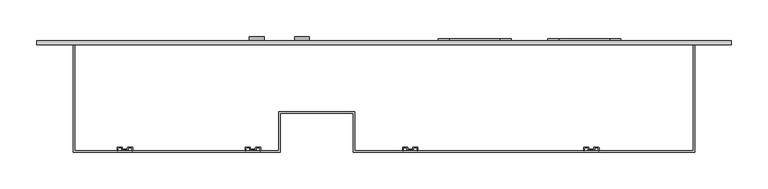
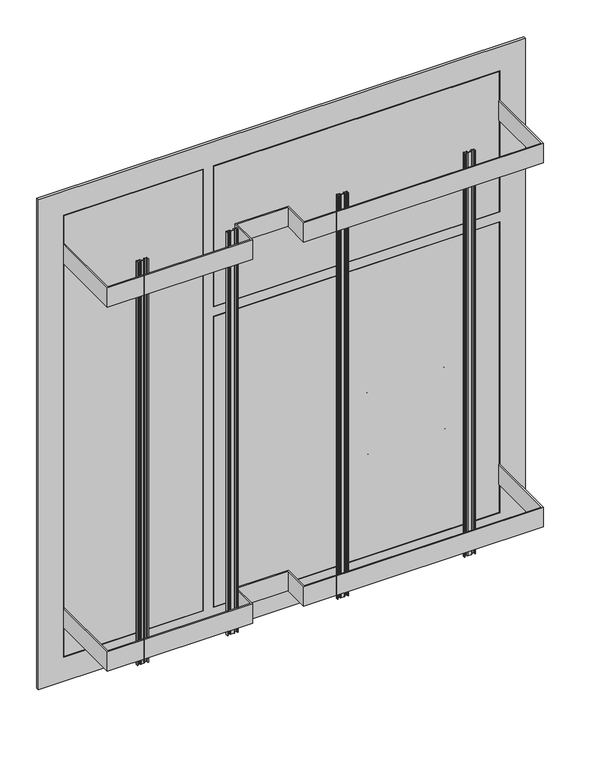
"""IFC4 building model written with IfcOpenShell, lengths in millimetres: proxy geometry, ЩЭ : ЩЭ_6 квартир."""

import ifcopenshell
import ifcopenshell.guid

model = None  # the IFC model being written
_history = None  # IfcOwnerHistory: only IFC2X3 demands one
_inside = {}  # id of a spatial element -> (the spatial element, [elements in it])
_under = {}  # id of a project, library or spatial element -> (it, [spatial elements below it])
_declared = {}  # id of a project -> (the project, [libraries it declares])
_typed = {}  # id of a type object -> (the type object, [elements of that type])
_made_of = {}  # id of a material, layer set ... -> (it, [elements and type objects made of it])


def new_model(schema):
    """Start an empty IFC model of exactly this schema.

    Asked for "IFC4X3", IfcOpenShell would pick the latest addendum, in which some entities
    have other attributes; the version numbers below select the first issue.
    IFC2X3 requires an IfcOwnerHistory on every rooted entity: one is made here for all.
    """
    global model, _history
    if schema == "IFC4X3":
        model = ifcopenshell.file(schema_version=(4, 3, 0, 0))
    else:
        model = ifcopenshell.file(schema=schema)
    _inside.clear()
    _under.clear()
    _declared.clear()
    _typed.clear()
    _made_of.clear()
    _history = None
    if model.schema == "IFC2X3":
        org = make("IfcOrganization", Name="unknown")
        user = make(
            "IfcPersonAndOrganization",
            ThePerson=make("IfcPerson", FamilyName="unknown"),
            TheOrganization=org,
        )
        app = make(
            "IfcApplication",
            ApplicationDeveloper=org,
            Version="unknown",
            ApplicationFullName="unknown",
            ApplicationIdentifier="unknown",
        )
        _history = make(
            "IfcOwnerHistory",
            OwningUser=user,
            OwningApplication=app,
            ChangeAction="ADDED",
            CreationDate=0,
        )
    return model


def make(cls, **values):
    """One entity of the class cls with the attributes given. An attribute that is None is left unset."""
    return model.create_entity(
        cls, **{name: value for name, value in values.items() if value is not None}
    )


def rooted(cls, **values):
    """An entity with a GlobalId (a new one), such as an element, a storey or a relation."""
    return make(cls, GlobalId=ifcopenshell.guid.new(), OwnerHistory=_history, **values)


def si_unit(unit_type, name, prefix=None):
    """IfcSIUnit, for example si_unit("LENGTHUNIT", "METRE", prefix="MILLI")."""
    return make("IfcSIUnit", UnitType=unit_type, Prefix=prefix, Name=name)


def assignment(units):
    """IfcUnitAssignment: the units of a project."""
    return None if units is None else make("IfcUnitAssignment", Units=units)


def point(xyz):
    """IfcCartesianPoint."""
    return None if xyz is None else make("IfcCartesianPoint", Coordinates=xyz)


def direction(xyz):
    """IfcDirection."""
    return None if xyz is None else make("IfcDirection", DirectionRatios=xyz)


def frame(location, z_axis=None, x_axis=None):
    """IfcAxis2Placement3D, a coordinate frame: its origin and axes. An axis left out is left unset."""
    return make(
        "IfcAxis2Placement3D",
        Location=point(location),
        Axis=direction(z_axis),
        RefDirection=direction(x_axis),
    )


def frame_2d(location, x_axis=None):
    """IfcAxis2Placement2D, a coordinate frame in the plane: its origin and x axis."""
    return make(
        "IfcAxis2Placement2D", Location=point(location), RefDirection=direction(x_axis)
    )


def origin():
    """The frame at (0, 0, 0) with its axes left unset."""
    return frame((0.0, 0.0, 0.0))


def place(relative_to, where):
    """IfcLocalPlacement: puts the frame where relative to a parent placement (None: the world)."""
    return make(
        "IfcLocalPlacement", PlacementRelTo=relative_to, RelativePlacement=where
    )


def context(
    kind, dimensions, precision=None, world=None, true_north=None, identifier=None
):
    """IfcGeometricRepresentationContext, for example the 3D "Model" context."""
    return make(
        "IfcGeometricRepresentationContext",
        ContextIdentifier=identifier,
        ContextType=kind,
        CoordinateSpaceDimension=dimensions,
        Precision=precision,
        WorldCoordinateSystem=world,
        TrueNorth=true_north,
    )


def project(units=None, contexts=None):
    """IfcProject with its units and contexts."""
    return rooted(
        "IfcProject",
        Name="project",
        RepresentationContexts=contexts,
        UnitsInContext=assignment(units),
    )


def spatial(cls, under=None, at=None, **own):
    """A site, building, storey or space (cls), placed at a placement, below another one or the project."""
    s = rooted(cls, ObjectPlacement=at, **own)
    if under is not None:
        _under.setdefault(under.id(), (under, []))[1].append(s)
    return s


def polyline(points):
    """IfcPolyline through the points."""
    return make("IfcPolyline", Points=[point(p) for p in points])


def circle_curve(where, radius):
    """IfcCircle in the frame where."""
    return make("IfcCircle", Position=where, Radius=radius)


def trimmed(basis, trim1, trim2, sense, master):
    """IfcTrimmedCurve: the piece of a basis curve between two trims."""
    return make(
        "IfcTrimmedCurve",
        BasisCurve=basis,
        Trim1=trim1,
        Trim2=trim2,
        SenseAgreement=sense,
        MasterRepresentation=master,
    )


def segment(curve, same_sense, transition):
    """IfcCompositeCurveSegment."""
    return make(
        "IfcCompositeCurveSegment",
        Transition=transition,
        SameSense=same_sense,
        ParentCurve=curve,
    )


def composite_curve(segments, self_intersect=None):
    """IfcCompositeCurve: segments joined end to end."""
    return make("IfcCompositeCurve", Segments=segments, SelfIntersect=self_intersect)


def outline(outer, holes=None, kind="AREA"):
    """IfcArbitraryClosedProfileDef: a profile drawn as a closed curve; with holes, ...WithVoids."""
    if holes is None:
        return make("IfcArbitraryClosedProfileDef", ProfileType=kind, OuterCurve=outer)
    return make(
        "IfcArbitraryProfileDefWithVoids",
        ProfileType=kind,
        OuterCurve=outer,
        InnerCurves=holes,
    )


def extrude(swept, where, along, depth):
    """IfcExtrudedAreaSolid: the profile swept, set in the frame where, extruded along a direction by depth."""
    return make(
        "IfcExtrudedAreaSolid",
        SweptArea=swept,
        Position=where,
        ExtrudedDirection=direction(along),
        Depth=depth,
    )


def shape(context_of_items, identifier, shape_type, items):
    """IfcShapeRepresentation: the items that make up one representation, for example the "Body"."""
    return make(
        "IfcShapeRepresentation",
        ContextOfItems=context_of_items,
        RepresentationIdentifier=identifier,
        RepresentationType=shape_type,
        Items=items,
    )


def source(mapping_origin, context_of_items, identifier, shape_type, items):
    """IfcRepresentationMap: a shape defined once, which mapped items show again and again."""
    return make(
        "IfcRepresentationMap",
        MappingOrigin=mapping_origin,
        MappedRepresentation=shape(context_of_items, identifier, shape_type, items),
    )


def transform(
    local_origin,
    x_axis=None,
    y_axis=None,
    z_axis=None,
    scale=None,
    scale2=None,
    scale3=None,
    uniform=True,
):
    """IfcCartesianTransformationOperator3D, or its non-uniform kind. x_axis, y_axis, z_axis: its Axis1, 2, 3."""
    if uniform:
        return make(
            "IfcCartesianTransformationOperator3D",
            Axis1=direction(x_axis),
            Axis2=direction(y_axis),
            LocalOrigin=point(local_origin),
            Scale=scale,
            Axis3=direction(z_axis),
        )
    return make(
        "IfcCartesianTransformationOperator3DnonUniform",
        Axis1=direction(x_axis),
        Axis2=direction(y_axis),
        LocalOrigin=point(local_origin),
        Scale=scale,
        Axis3=direction(z_axis),
        Scale2=scale2,
        Scale3=scale3,
    )


def mapped(mapping_source, mapping_target):
    """IfcMappedItem: shows the shape of a source again, moved by a transform."""
    return make(
        "IfcMappedItem", MappingSource=mapping_source, MappingTarget=mapping_target
    )


def made_of(thing, what):
    """Note that an element or type object is made of a material, layer set ...; save() writes the relation."""
    if what is not None:
        _made_of.setdefault(what.id(), (what, []))[1].append(thing)
    return thing


def element(
    cls,
    number,
    at=None,
    inside=None,
    cuts=None,
    type_object=None,
    material=None,
    context=None,
    identifier="Body",
    shape_type=None,
    held_by="IfcProductDefinitionShape",
    body=None,
    shapes=None,
    **own,
):
    """One element of the class cls, such as IfcWall. Its Tag is "e" and its number.

    at: its placement. inside: the storey or other place that contains it. cuts: it is an
    opening in that element (IfcRelVoidsElement). A single representation is given by context,
    identifier, shape_type and body (its items); several are given by shapes. held_by: the class
    of the entity that holds the representations. save() writes the other relations.
    """
    e = rooted(cls, Tag="e%d" % number, ObjectPlacement=at, **own)
    if body is not None:
        shapes = [shape(context, identifier, shape_type, body)]
    if shapes is not None:
        e.Representation = make(held_by, Representations=shapes)
    if inside is not None:
        _inside.setdefault(inside.id(), (inside, []))[1].append(e)
    if cuts is not None:
        rooted(
            "IfcRelVoidsElement", RelatingBuildingElement=cuts, RelatedOpeningElement=e
        )
    if type_object is not None:
        _typed.setdefault(type_object.id(), (type_object, []))[1].append(e)
    return made_of(e, material)


def aggregate(whole, parts):
    """IfcRelAggregates: a whole, such as a stair, and the parts it consists of."""
    return rooted("IfcRelAggregates", RelatingObject=whole, RelatedObjects=parts)


def save(model, path):
    """Write the relations noted so far, then the file.

    IfcRelAggregates (storeys below a building ...), IfcRelContainedInSpatialStructure (elements
    in a storey), IfcRelDefinesByType, IfcRelAssociatesMaterial and IfcRelDeclares: one each for
    every whole, place, type object, material and project.
    """
    for whole, parts in _under.values():
        aggregate(whole, parts)
    for where, things in _inside.values():
        rooted(
            "IfcRelContainedInSpatialStructure",
            RelatedElements=things,
            RelatingStructure=where,
        )
    for kind, things in _typed.values():
        rooted("IfcRelDefinesByType", RelatedObjects=things, RelatingType=kind)
    for what, things in _made_of.values():
        rooted("IfcRelAssociatesMaterial", RelatedObjects=things, RelatingMaterial=what)
    for by, libraries in _declared.values():
        rooted("IfcRelDeclares", RelatingContext=by, RelatedDefinitions=libraries)
    model.write(path)


def plane_surface(at):
    """IfcPlane: the flat surface through the origin of the frame at, square to its z axis."""
    return make("IfcPlane", Position=at)


def cylinder_surface(at, radius):
    """IfcCylindricalSurface: all points at the distance radius from the z axis of the frame at."""
    return make("IfcCylindricalSurface", Position=at, Radius=radius)


def revolved_surface(curve, axis_point, axis_direction):
    """IfcSurfaceOfRevolution: the curve turned about the line through axis_point along axis_direction."""
    return make(
        "IfcSurfaceOfRevolution",
        SweptCurve=make("IfcArbitraryOpenProfileDef", ProfileType="CURVE", Curve=curve),
        AxisPosition=make("IfcAxis1Placement", Location=point(axis_point), Axis=direction(axis_direction)),
    )


def advanced_brep(points, edges, surfaces, faces):
    """IfcAdvancedBrep: a solid bounded by faces that lie on surfaces and meet in shared edges.

    An edge is (start, end): straight between two places in points (the first is 0);
    or (start, end, curve); or (start, end, curve, False) where it runs against its curve.
    A face is (place in surfaces, loops), or (place, loops, False) where it looks against
    its surface's normal. A loop lists edges by number (the first is 1), with a minus sign
    where the edge is run from its end to its start. The first loop is the outer one.
    """
    corners = [point(p) for p in points]
    vertices = [make("IfcVertexPoint", VertexGeometry=c) for c in corners]
    made = []
    for start, end, *more in edges:
        made.append(
            make(
                "IfcEdgeCurve",
                EdgeStart=vertices[start],
                EdgeEnd=vertices[end],
                EdgeGeometry=more[0] if more else make("IfcPolyline", Points=[corners[start], corners[end]]),
                SameSense=more[1] if len(more) > 1 else True,
            )
        )
    hull = []
    for where, loops, *sense in faces:
        bounds = []
        for j, loop in enumerate(loops):
            ring = [make("IfcOrientedEdge", EdgeElement=made[abs(k) - 1], Orientation=k > 0) for k in loop]
            bounds.append(
                make(
                    "IfcFaceOuterBound" if j == 0 else "IfcFaceBound",
                    Bound=make("IfcEdgeLoop", EdgeList=ring),
                    Orientation=True,
                )
            )
        hull.append(make("IfcAdvancedFace", Bounds=bounds, FaceSurface=surfaces[where], SameSense=sense[0] if sense else True))
    return make("IfcAdvancedBrep", Outer=make("IfcClosedShell", CfsFaces=hull))


def electrical_equipment_640d19c4(model_context):
    return source(origin(), model_context, "Body", "SolidModel", [
        extrude(outline(composite_curve([segment(trimmed(circle_curve(frame_2d((373.0, 89.0)), 15.0), [point((388.0, 89.0))], [point((373.0, 74.0))], False, "CARTESIAN"), True, "CONTINUOUS"), segment(polyline([(373.0, 74.0), (338.0, 74.0)]), True, "CONTINUOUS"), segment(trimmed(circle_curve(frame_2d((338.0, 89.0)), 15.0), [point((338.0, 74.0))], [point((323.0, 89.0))], False, "CARTESIAN"), True, "CONTINUOUS"), segment(polyline([(323.0, 89.0), (323.0, 159.0)]), True, "CONTINUOUS"), segment(trimmed(circle_curve(frame_2d((338.0, 159.0)), 15.0), [point((323.0, 159.0))], [point((338.0, 174.0))], False, "CARTESIAN"), True, "CONTINUOUS"), segment(polyline([(338.0, 174.0), (373.0, 174.0)]), True, "CONTINUOUS"), segment(trimmed(circle_curve(frame_2d((373.0, 159.0)), 15.0), [point((373.0, 174.0))], [point((388.0, 159.0))], False, "CARTESIAN"), True, "CONTINUOUS"), segment(polyline([(388.0, 159.0), (388.0, 89.0)]), True, "CONTINUOUS")], self_intersect=False)), frame((0.0, 5.0, 0.0), z_axis=(0.0, 1.0, 0.0), x_axis=(0.0, 0.0, 1.0)), (0.0, 0.0, 1.0), 3.0),
        extrude(outline(composite_curve([segment(trimmed(circle_curve(frame_2d((373.0, 239.0)), 15.0), [point((388.0, 239.0))], [point((373.0, 224.0))], False, "CARTESIAN"), True, "CONTINUOUS"), segment(polyline([(373.0, 224.0), (338.0, 224.0)]), True, "CONTINUOUS"), segment(trimmed(circle_curve(frame_2d((338.0, 239.0)), 15.0), [point((338.0, 224.0))], [point((323.0, 239.0))], False, "CARTESIAN"), True, "CONTINUOUS"), segment(polyline([(323.0, 239.0), (323.0, 309.0)]), True, "CONTINUOUS"), segment(trimmed(circle_curve(frame_2d((338.0, 309.0)), 15.0), [point((323.0, 309.0))], [point((338.0, 324.0))], False, "CARTESIAN"), True, "CONTINUOUS"), segment(polyline([(338.0, 324.0), (373.0, 324.0)]), True, "CONTINUOUS"), segment(trimmed(circle_curve(frame_2d((373.0, 309.0)), 15.0), [point((373.0, 324.0))], [point((388.0, 309.0))], False, "CARTESIAN"), True, "CONTINUOUS"), segment(polyline([(388.0, 309.0), (388.0, 239.0)]), True, "CONTINUOUS")], self_intersect=False)), frame((0.0, 5.0, 0.0), z_axis=(0.0, 1.0, 0.0), x_axis=(0.0, 0.0, 1.0)), (0.0, 0.0, 1.0), 3.0),
        extrude(outline(composite_curve([segment(trimmed(circle_curve(frame_2d((248.0, 89.0)), 15.0), [point((263.0, 89.0))], [point((248.0, 74.0))], False, "CARTESIAN"), True, "CONTINUOUS"), segment(polyline([(248.0, 74.0), (213.0, 74.0)]), True, "CONTINUOUS"), segment(trimmed(circle_curve(frame_2d((213.0, 89.0)), 15.0), [point((213.0, 74.0))], [point((198.0, 89.0))], False, "CARTESIAN"), True, "CONTINUOUS"), segment(polyline([(198.0, 89.0), (198.0, 159.0)]), True, "CONTINUOUS"), segment(trimmed(circle_curve(frame_2d((213.0, 159.0)), 15.0), [point((198.0, 159.0))], [point((213.0, 174.0))], False, "CARTESIAN"), True, "CONTINUOUS"), segment(polyline([(213.0, 174.0), (248.0, 174.0)]), True, "CONTINUOUS"), segment(trimmed(circle_curve(frame_2d((248.0, 159.0)), 15.0), [point((248.0, 174.0))], [point((263.0, 159.0))], False, "CARTESIAN"), True, "CONTINUOUS"), segment(polyline([(263.0, 159.0), (263.0, 89.0)]), True, "CONTINUOUS")], self_intersect=False)), frame((0.0, 5.0, 0.0), z_axis=(0.0, 1.0, 0.0), x_axis=(0.0, 0.0, 1.0)), (0.0, 0.0, 1.0), 3.0),
        extrude(outline(composite_curve([segment(trimmed(circle_curve(frame_2d((248.0, 239.0)), 15.0), [point((263.0, 239.0))], [point((248.0, 224.0))], False, "CARTESIAN"), True, "CONTINUOUS"), segment(polyline([(248.0, 224.0), (213.0, 224.0)]), True, "CONTINUOUS"), segment(trimmed(circle_curve(frame_2d((213.0, 239.0)), 15.0), [point((213.0, 224.0))], [point((198.0, 239.0))], False, "CARTESIAN"), True, "CONTINUOUS"), segment(polyline([(198.0, 239.0), (198.0, 309.0)]), True, "CONTINUOUS"), segment(trimmed(circle_curve(frame_2d((213.0, 309.0)), 15.0), [point((198.0, 309.0))], [point((213.0, 324.0))], False, "CARTESIAN"), True, "CONTINUOUS"), segment(polyline([(213.0, 324.0), (248.0, 324.0)]), True, "CONTINUOUS"), segment(trimmed(circle_curve(frame_2d((248.0, 309.0)), 15.0), [point((248.0, 324.0))], [point((263.0, 309.0))], False, "CARTESIAN"), True, "CONTINUOUS"), segment(polyline([(263.0, 309.0), (263.0, 239.0)]), True, "CONTINUOUS")], self_intersect=False)), frame((0.0, 5.0, 0.0), z_axis=(0.0, 1.0, 0.0), x_axis=(0.0, 0.0, 1.0)), (0.0, 0.0, 1.0), 3.0),
        extrude(outline(composite_curve([segment(trimmed(circle_curve(frame_2d((498.0, 89.0)), 15.0), [point((513.0, 89.0))], [point((498.0, 74.0))], False, "CARTESIAN"), True, "CONTINUOUS"), segment(polyline([(498.0, 74.0), (463.0, 74.0)]), True, "CONTINUOUS"), segment(trimmed(circle_curve(frame_2d((463.0, 89.0)), 15.0), [point((463.0, 74.0))], [point((448.0, 89.0))], False, "CARTESIAN"), True, "CONTINUOUS"), segment(polyline([(448.0, 89.0), (448.0, 159.0)]), True, "CONTINUOUS"), segment(trimmed(circle_curve(frame_2d((463.0, 159.0)), 15.0), [point((448.0, 159.0))], [point((463.0, 174.0))], False, "CARTESIAN"), True, "CONTINUOUS"), segment(polyline([(463.0, 174.0), (498.0, 174.0)]), True, "CONTINUOUS"), segment(trimmed(circle_curve(frame_2d((498.0, 159.0)), 15.0), [point((498.0, 174.0))], [point((513.0, 159.0))], False, "CARTESIAN"), True, "CONTINUOUS"), segment(polyline([(513.0, 159.0), (513.0, 89.0)]), True, "CONTINUOUS")], self_intersect=False)), frame((0.0, 5.0, 0.0), z_axis=(0.0, 1.0, 0.0), x_axis=(0.0, 0.0, 1.0)), (0.0, 0.0, 1.0), 3.0),
        extrude(outline(composite_curve([segment(trimmed(circle_curve(frame_2d((498.0, 239.0)), 15.0), [point((513.0, 239.0))], [point((498.0, 224.0))], False, "CARTESIAN"), True, "CONTINUOUS"), segment(polyline([(498.0, 224.0), (463.0, 224.0)]), True, "CONTINUOUS"), segment(trimmed(circle_curve(frame_2d((463.0, 239.0)), 15.0), [point((463.0, 224.0))], [point((448.0, 239.0))], False, "CARTESIAN"), True, "CONTINUOUS"), segment(polyline([(448.0, 239.0), (448.0, 309.0)]), True, "CONTINUOUS"), segment(trimmed(circle_curve(frame_2d((463.0, 309.0)), 15.0), [point((448.0, 309.0))], [point((463.0, 324.0))], False, "CARTESIAN"), True, "CONTINUOUS"), segment(polyline([(463.0, 324.0), (498.0, 324.0)]), True, "CONTINUOUS"), segment(trimmed(circle_curve(frame_2d((498.0, 309.0)), 15.0), [point((498.0, 324.0))], [point((513.0, 309.0))], False, "CARTESIAN"), True, "CONTINUOUS"), segment(polyline([(513.0, 309.0), (513.0, 239.0)]), True, "CONTINUOUS")], self_intersect=False)), frame((0.0, 5.0, 0.0), z_axis=(0.0, 1.0, 0.0), x_axis=(0.0, 0.0, 1.0)), (0.0, 0.0, 1.0), 3.0),
        extrude(outline(composite_curve([segment(trimmed(circle_curve(frame_2d((26.3020158, -141.0)), 1.0), [point((25.3020158, -141.0))], [point((26.3020158, -140.0))], False, "CARTESIAN"), True, "CONTINUOUS"), segment(polyline([(26.3020158, -140.0), (31.3020158, -140.0)]), True, "CONTINUOUS"), segment(trimmed(circle_curve(frame_2d((31.3020158, -141.0)), 1.0), [point((31.3020158, -140.0))], [point((32.3020158, -141.0))], False, "CARTESIAN"), True, "CONTINUOUS"), segment(polyline([(32.3020158, -141.0), (32.3020158, -142.0)]), True, "CONTINUOUS"), segment(trimmed(circle_curve(frame_2d((33.3020158, -142.0)), 1.0), [point((32.3020158, -142.0))], [point((33.3020158, -143.0))], True, "CARTESIAN"), True, "CONTINUOUS"), segment(polyline([(33.3020158, -143.0), (38.3020158, -143.0)]), True, "CONTINUOUS"), segment(trimmed(circle_curve(frame_2d((38.3020158, -142.0)), 1.0), [point((38.3020158, -143.0))], [point((39.3020158, -142.0))], True, "CARTESIAN"), True, "CONTINUOUS"), segment(polyline([(39.3020158, -142.0), (39.3020158, -141.0)]), True, "CONTINUOUS"), segment(trimmed(circle_curve(frame_2d((40.3020158, -141.0)), 1.0), [point((39.3020158, -141.0))], [point((40.3020158, -140.0))], False, "CARTESIAN"), True, "CONTINUOUS"), segment(polyline([(40.3020158, -140.0), (45.3020158, -140.0)]), True, "CONTINUOUS"), segment(trimmed(circle_curve(frame_2d((45.3020158, -141.0)), 1.0), [point((45.3020158, -140.0))], [point((46.3020158, -141.0))], False, "CARTESIAN"), True, "CONTINUOUS"), segment(polyline([(46.3020158, -141.0), (46.3020158, -145.0), (45.3020158, -145.0), (45.3020158, -142.0)]), True, "CONTINUOUS"), segment(trimmed(circle_curve(frame_2d((44.3020158, -142.0)), 1.0), [point((45.3020158, -142.0))], [point((44.3020158, -141.0))], True, "CARTESIAN"), True, "CONTINUOUS"), segment(polyline([(44.3020158, -141.0), (41.3020158, -141.0)]), True, "CONTINUOUS"), segment(trimmed(circle_curve(frame_2d((41.3020158, -142.0)), 1.0), [point((41.3020158, -141.0))], [point((40.3020158, -142.0))], True, "CARTESIAN"), True, "CONTINUOUS"), segment(polyline([(40.3020158, -142.0), (40.3020158, -143.0)]), True, "CONTINUOUS"), segment(trimmed(circle_curve(frame_2d((39.3020158, -143.0)), 1.0), [point((40.3020158, -143.0))], [point((39.3020158, -144.0))], False, "CARTESIAN"), True, "CONTINUOUS"), segment(polyline([(39.3020158, -144.0), (32.3020158, -144.0)]), True, "CONTINUOUS"), segment(trimmed(circle_curve(frame_2d((32.3020158, -143.0)), 1.0), [point((32.3020158, -144.0))], [point((31.3020158, -143.0))], False, "CARTESIAN"), True, "CONTINUOUS"), segment(polyline([(31.3020158, -143.0), (31.3020158, -142.0)]), True, "CONTINUOUS"), segment(trimmed(circle_curve(frame_2d((30.3020158, -142.0)), 1.0), [point((31.3020158, -142.0))], [point((30.3020158, -141.0))], True, "CARTESIAN"), True, "CONTINUOUS"), segment(polyline([(30.3020158, -141.0), (27.3020158, -141.0)]), True, "CONTINUOUS"), segment(trimmed(circle_curve(frame_2d((27.3020158, -142.0)), 1.0), [point((27.3020158, -141.0))], [point((26.3020158, -142.0))], True, "CARTESIAN"), True, "CONTINUOUS"), segment(polyline([(26.3020158, -142.0), (26.3020158, -145.0), (25.3020158, -145.0), (25.3020158, -141.0)]), True, "CONTINUOUS")], self_intersect=False)), frame((0.0, 0.0, 99.2671013), z_axis=(0.0, 0.0, 1.0), x_axis=(1.0, 0.0, 0.0)), (0.0, 0.0, 1.0), 830.6584154),
        extrude(outline(composite_curve([segment(trimmed(circle_curve(frame_2d((274.0, -141.0)), 1.0), [point((273.0, -141.0))], [point((274.0, -140.0))], False, "CARTESIAN"), True, "CONTINUOUS"), segment(polyline([(274.0, -140.0), (279.0, -140.0)]), True, "CONTINUOUS"), segment(trimmed(circle_curve(frame_2d((279.0, -141.0)), 1.0), [point((279.0, -140.0))], [point((280.0, -141.0))], False, "CARTESIAN"), True, "CONTINUOUS"), segment(polyline([(280.0, -141.0), (280.0, -142.0)]), True, "CONTINUOUS"), segment(trimmed(circle_curve(frame_2d((281.0, -142.0)), 1.0), [point((280.0, -142.0))], [point((281.0, -143.0))], True, "CARTESIAN"), True, "CONTINUOUS"), segment(polyline([(281.0, -143.0), (286.0, -143.0)]), True, "CONTINUOUS"), segment(trimmed(circle_curve(frame_2d((286.0, -142.0)), 1.0), [point((286.0, -143.0))], [point((287.0, -142.0))], True, "CARTESIAN"), True, "CONTINUOUS"), segment(polyline([(287.0, -142.0), (287.0, -141.0)]), True, "CONTINUOUS"), segment(trimmed(circle_curve(frame_2d((288.0, -141.0)), 1.0), [point((287.0, -141.0))], [point((288.0, -140.0))], False, "CARTESIAN"), True, "CONTINUOUS"), segment(polyline([(288.0, -140.0), (293.0, -140.0)]), True, "CONTINUOUS"), segment(trimmed(circle_curve(frame_2d((293.0, -141.0)), 1.0), [point((293.0, -140.0))], [point((294.0, -141.0))], False, "CARTESIAN"), True, "CONTINUOUS"), segment(polyline([(294.0, -141.0), (294.0, -145.0), (293.0, -145.0), (293.0, -142.0)]), True, "CONTINUOUS"), segment(trimmed(circle_curve(frame_2d((292.0, -142.0)), 1.0), [point((293.0, -142.0))], [point((292.0, -141.0))], True, "CARTESIAN"), True, "CONTINUOUS"), segment(polyline([(292.0, -141.0), (289.0, -141.0)]), True, "CONTINUOUS"), segment(trimmed(circle_curve(frame_2d((289.0, -142.0)), 1.0), [point((289.0, -141.0))], [point((288.0, -142.0))], True, "CARTESIAN"), True, "CONTINUOUS"), segment(polyline([(288.0, -142.0), (288.0, -143.0)]), True, "CONTINUOUS"), segment(trimmed(circle_curve(frame_2d((287.0, -143.0)), 1.0), [point((288.0, -143.0))], [point((287.0, -144.0))], False, "CARTESIAN"), True, "CONTINUOUS"), segment(polyline([(287.0, -144.0), (280.0, -144.0)]), True, "CONTINUOUS"), segment(trimmed(circle_curve(frame_2d((280.0, -143.0)), 1.0), [point((280.0, -144.0))], [point((279.0, -143.0))], False, "CARTESIAN"), True, "CONTINUOUS"), segment(polyline([(279.0, -143.0), (279.0, -142.0)]), True, "CONTINUOUS"), segment(trimmed(circle_curve(frame_2d((278.0, -142.0)), 1.0), [point((279.0, -142.0))], [point((278.0, -141.0))], True, "CARTESIAN"), True, "CONTINUOUS"), segment(polyline([(278.0, -141.0), (275.0, -141.0)]), True, "CONTINUOUS"), segment(trimmed(circle_curve(frame_2d((275.0, -142.0)), 1.0), [point((275.0, -141.0))], [point((274.0, -142.0))], True, "CARTESIAN"), True, "CONTINUOUS"), segment(polyline([(274.0, -142.0), (274.0, -145.0), (273.0, -145.0), (273.0, -141.0)]), True, "CONTINUOUS")], self_intersect=False)), frame((0.0, 0.0, 99.2671013), z_axis=(0.0, 0.0, 1.0), x_axis=(1.0, 0.0, 0.0)), (0.0, 0.0, 1.0), 830.6584154),
        extrude(outline(composite_curve([segment(trimmed(circle_curve(frame_2d((-188.6979842, -141.0)), 1.0), [point((-189.6979842, -141.0))], [point((-188.6979842, -140.0))], False, "CARTESIAN"), True, "CONTINUOUS"), segment(polyline([(-188.6979842, -140.0), (-183.6979842, -140.0)]), True, "CONTINUOUS"), segment(trimmed(circle_curve(frame_2d((-183.6979842, -141.0)), 1.0), [point((-183.6979842, -140.0))], [point((-182.6979842, -141.0))], False, "CARTESIAN"), True, "CONTINUOUS"), segment(polyline([(-182.6979842, -141.0), (-182.6979842, -142.0)]), True, "CONTINUOUS"), segment(trimmed(circle_curve(frame_2d((-181.6979842, -142.0)), 1.0), [point((-182.6979842, -142.0))], [point((-181.6979842, -143.0))], True, "CARTESIAN"), True, "CONTINUOUS"), segment(polyline([(-181.6979842, -143.0), (-176.6979842, -143.0)]), True, "CONTINUOUS"), segment(trimmed(circle_curve(frame_2d((-176.6979842, -142.0)), 1.0), [point((-176.6979842, -143.0))], [point((-175.6979842, -142.0))], True, "CARTESIAN"), True, "CONTINUOUS"), segment(polyline([(-175.6979842, -142.0), (-175.6979842, -141.0)]), True, "CONTINUOUS"), segment(trimmed(circle_curve(frame_2d((-174.6979842, -141.0)), 1.0), [point((-175.6979842, -141.0))], [point((-174.6979842, -140.0))], False, "CARTESIAN"), True, "CONTINUOUS"), segment(polyline([(-174.6979842, -140.0), (-169.6979842, -140.0)]), True, "CONTINUOUS"), segment(trimmed(circle_curve(frame_2d((-169.6979842, -141.0)), 1.0), [point((-169.6979842, -140.0))], [point((-168.6979842, -141.0))], False, "CARTESIAN"), True, "CONTINUOUS"), segment(polyline([(-168.6979842, -141.0), (-168.6979842, -145.0), (-169.6979842, -145.0), (-169.6979842, -142.0)]), True, "CONTINUOUS"), segment(trimmed(circle_curve(frame_2d((-170.6979842, -142.0)), 1.0), [point((-169.6979842, -142.0))], [point((-170.6979842, -141.0))], True, "CARTESIAN"), True, "CONTINUOUS"), segment(polyline([(-170.6979842, -141.0), (-173.6979842, -141.0)]), True, "CONTINUOUS"), segment(trimmed(circle_curve(frame_2d((-173.6979842, -142.0)), 1.0), [point((-173.6979842, -141.0))], [point((-174.6979842, -142.0))], True, "CARTESIAN"), True, "CONTINUOUS"), segment(polyline([(-174.6979842, -142.0), (-174.6979842, -143.0)]), True, "CONTINUOUS"), segment(trimmed(circle_curve(frame_2d((-175.6979842, -143.0)), 1.0), [point((-174.6979842, -143.0))], [point((-175.6979842, -144.0))], False, "CARTESIAN"), True, "CONTINUOUS"), segment(polyline([(-175.6979842, -144.0), (-182.6979842, -144.0)]), True, "CONTINUOUS"), segment(trimmed(circle_curve(frame_2d((-182.6979842, -143.0)), 1.0), [point((-182.6979842, -144.0))], [point((-183.6979842, -143.0))], False, "CARTESIAN"), True, "CONTINUOUS"), segment(polyline([(-183.6979842, -143.0), (-183.6979842, -142.0)]), True, "CONTINUOUS"), segment(trimmed(circle_curve(frame_2d((-184.6979842, -142.0)), 1.0), [point((-183.6979842, -142.0))], [point((-184.6979842, -141.0))], True, "CARTESIAN"), True, "CONTINUOUS"), segment(polyline([(-184.6979842, -141.0), (-187.6979842, -141.0)]), True, "CONTINUOUS"), segment(trimmed(circle_curve(frame_2d((-187.6979842, -142.0)), 1.0), [point((-187.6979842, -141.0))], [point((-188.6979842, -142.0))], True, "CARTESIAN"), True, "CONTINUOUS"), segment(polyline([(-188.6979842, -142.0), (-188.6979842, -145.0), (-189.6979842, -145.0), (-189.6979842, -141.0)]), True, "CONTINUOUS")], self_intersect=False)), frame((0.0, 0.0, 99.2671013), z_axis=(0.0, 0.0, 1.0), x_axis=(1.0, 0.0, 0.0)), (0.0, 0.0, 1.0), 830.6584154),
        extrude(outline(composite_curve([segment(trimmed(circle_curve(frame_2d((-363.6979842, -141.0)), 1.0), [point((-364.6979842, -141.0))], [point((-363.6979842, -140.0))], False, "CARTESIAN"), True, "CONTINUOUS"), segment(polyline([(-363.6979842, -140.0), (-358.6979842, -140.0)]), True, "CONTINUOUS"), segment(trimmed(circle_curve(frame_2d((-358.6979842, -141.0)), 1.0), [point((-358.6979842, -140.0))], [point((-357.6979842, -141.0))], False, "CARTESIAN"), True, "CONTINUOUS"), segment(polyline([(-357.6979842, -141.0), (-357.6979842, -142.0)]), True, "CONTINUOUS"), segment(trimmed(circle_curve(frame_2d((-356.6979842, -142.0)), 1.0), [point((-357.6979842, -142.0))], [point((-356.6979842, -143.0))], True, "CARTESIAN"), True, "CONTINUOUS"), segment(polyline([(-356.6979842, -143.0), (-351.6979842, -143.0)]), True, "CONTINUOUS"), segment(trimmed(circle_curve(frame_2d((-351.6979842, -142.0)), 1.0), [point((-351.6979842, -143.0))], [point((-350.6979842, -142.0))], True, "CARTESIAN"), True, "CONTINUOUS"), segment(polyline([(-350.6979842, -142.0), (-350.6979842, -141.0)]), True, "CONTINUOUS"), segment(trimmed(circle_curve(frame_2d((-349.6979842, -141.0)), 1.0), [point((-350.6979842, -141.0))], [point((-349.6979842, -140.0))], False, "CARTESIAN"), True, "CONTINUOUS"), segment(polyline([(-349.6979842, -140.0), (-344.6979842, -140.0)]), True, "CONTINUOUS"), segment(trimmed(circle_curve(frame_2d((-344.6979842, -141.0)), 1.0), [point((-344.6979842, -140.0))], [point((-343.6979842, -141.0))], False, "CARTESIAN"), True, "CONTINUOUS"), segment(polyline([(-343.6979842, -141.0), (-343.6979842, -145.0), (-344.6979842, -145.0), (-344.6979842, -142.0)]), True, "CONTINUOUS"), segment(trimmed(circle_curve(frame_2d((-345.6979842, -142.0)), 1.0), [point((-344.6979842, -142.0))], [point((-345.6979842, -141.0))], True, "CARTESIAN"), True, "CONTINUOUS"), segment(polyline([(-345.6979842, -141.0), (-348.6979842, -141.0)]), True, "CONTINUOUS"), segment(trimmed(circle_curve(frame_2d((-348.6979842, -142.0)), 1.0), [point((-348.6979842, -141.0))], [point((-349.6979842, -142.0))], True, "CARTESIAN"), True, "CONTINUOUS"), segment(polyline([(-349.6979842, -142.0), (-349.6979842, -143.0)]), True, "CONTINUOUS"), segment(trimmed(circle_curve(frame_2d((-350.6979842, -143.0)), 1.0), [point((-349.6979842, -143.0))], [point((-350.6979842, -144.0))], False, "CARTESIAN"), True, "CONTINUOUS"), segment(polyline([(-350.6979842, -144.0), (-357.6979842, -144.0)]), True, "CONTINUOUS"), segment(trimmed(circle_curve(frame_2d((-357.6979842, -143.0)), 1.0), [point((-357.6979842, -144.0))], [point((-358.6979842, -143.0))], False, "CARTESIAN"), True, "CONTINUOUS"), segment(polyline([(-358.6979842, -143.0), (-358.6979842, -142.0)]), True, "CONTINUOUS"), segment(trimmed(circle_curve(frame_2d((-359.6979842, -142.0)), 1.0), [point((-358.6979842, -142.0))], [point((-359.6979842, -141.0))], True, "CARTESIAN"), True, "CONTINUOUS"), segment(polyline([(-359.6979842, -141.0), (-362.6979842, -141.0)]), True, "CONTINUOUS"), segment(trimmed(circle_curve(frame_2d((-362.6979842, -142.0)), 1.0), [point((-362.6979842, -141.0))], [point((-363.6979842, -142.0))], True, "CARTESIAN"), True, "CONTINUOUS"), segment(polyline([(-363.6979842, -142.0), (-363.6979842, -145.0), (-364.6979842, -145.0), (-364.6979842, -141.0)]), True, "CONTINUOUS")], self_intersect=False)), frame((0.0, 0.0, 99.2671013), z_axis=(0.0, 0.0, 1.0), x_axis=(1.0, 0.0, 0.0)), (0.0, 0.0, 1.0), 830.6584154),
        extrude(outline(polyline([(424.0, 0.0), (-132.0, 0.0), (-132.0, 5.0), (424.0, 5.0), (424.0, 0.0)])), frame((0.0, 0.0, 670.5), z_axis=(0.0, 0.0, 1.0), x_axis=(1.0, 0.0, 0.0)), (0.0, 0.0, 1.0), 288.5),
        extrude(outline(polyline([(-425.0, -147.0), (-425.0, 0.0), (-423.0, 0.0), (-423.0, -145.0), (-144.0, -145.0), (-144.0, -92.0), (-40.0, -92.0), (-40.0, -145.0), (423.0, -145.0), (423.0, 0.0), (425.0, 0.0), (425.0, -147.0), (-42.0, -147.0), (-42.0, -94.0), (-142.0, -94.0), (-142.0, -147.0), (-425.0, -147.0)])), frame((0.0, 0.0, 860.0), z_axis=(0.0, 0.0, 1.0), x_axis=(1.0, 0.0, 0.0)), (0.0, 0.0, 1.0), 40.0),
        extrude(outline(polyline([(-425.0, -147.0), (-425.0, 0.0), (-423.0, 0.0), (-423.0, -145.0), (-144.0, -145.0), (-144.0, -92.0), (-40.0, -92.0), (-40.0, -145.0), (423.0, -145.0), (423.0, 0.0), (425.0, 0.0), (425.0, -147.0), (-42.0, -147.0), (-42.0, -94.0), (-142.0, -94.0), (-142.0, -147.0), (-425.0, -147.0)])), frame((0.0, 0.0, 110.0), z_axis=(0.0, 0.0, 1.0), x_axis=(1.0, 0.0, 0.0)), (0.0, 0.0, 1.0), 40.0),
        advanced_brep(
        [(-184.0, 5.0, 505.0), (-164.0, 5.0, 505.0), (-174.0, 5.0, 505.0), (-184.0, 11.0, 505.0), (-164.0, 11.0, 505.0), (-177.1377642, 11.0, 505.0), (-170.8622358, 11.0, 505.0), (-177.1377642, 9.9822294, 505.0), (-170.8622358, 9.9822294, 505.0), (-174.0, 9.9822294, 505.0)],
        [
            (0, 1, circle_curve(frame((-174.0, 5.0, 505.0), z_axis=(0.0, -1.0, 0.0), x_axis=(1.0, 0.0, 0.0)), 10.0)),
            (1, 2),
            (2, 0),
            (1, 0, circle_curve(frame((-174.0, 5.0, 505.0), z_axis=(0.0, -1.0, 0.0), x_axis=(1.0, 0.0, 0.0)), 10.0)),
            (3, 4, circle_curve(frame((-174.0, 11.0, 505.0), z_axis=(0.0, -1.0, 0.0), x_axis=(1.0, 0.0, 0.0)), 10.0)),
            (4, 1),
            (0, 3),
            (4, 3, circle_curve(frame((-174.0, 11.0, 505.0), z_axis=(0.0, -1.0, 0.0), x_axis=(1.0, 0.0, 0.0)), 10.0)),
            (5, 6, circle_curve(frame((-174.0, 11.0, 505.0), z_axis=(0.0, -1.0, 0.0), x_axis=(1.0, 0.0, 0.0)), 3.1377642)),
            (6, 4),
            (3, 5),
            (6, 5, circle_curve(frame((-174.0, 11.0, 505.0), z_axis=(0.0, -1.0, 0.0), x_axis=(1.0, 0.0, 0.0)), 3.1377642)),
            (7, 8, circle_curve(frame((-174.0, 9.9822294, 505.0), z_axis=(0.0, -1.0, 0.0), x_axis=(1.0, 0.0, 0.0)), 3.1377642)),
            (8, 6),
            (5, 7),
            (8, 7, circle_curve(frame((-174.0, 9.9822294, 505.0), z_axis=(0.0, -1.0, 0.0), x_axis=(1.0, 0.0, 0.0)), 3.1377642)),
            (9, 8),
            (7, 9),
        ],
        [
            plane_surface(frame((-174.0, 5.0, 505.0), z_axis=(0.0, -1.0, 0.0), x_axis=(1.0, 0.0, 0.0))),
            cylinder_surface(frame((-174.0, 18.1348851, 505.0), z_axis=(0.0, 1.0, 0.0), x_axis=(1.0, 0.0, 0.0)), 10.0),
            plane_surface(frame((-174.0, 11.0, 505.0), z_axis=(0.0, 1.0, 0.0), x_axis=(1.0, 0.0, 0.0))),
            revolved_surface(polyline([(-170.8622358, 11.0, 505.0), (-170.8622358, 9.9822294, 505.0)]), (-174.0, 18.1348851, 505.0), (0.0, 1.0, 0.0)),
            plane_surface(frame((-174.0, 9.9822294, 505.0), z_axis=(0.0, 1.0, 0.0), x_axis=(1.0, 0.0, 0.0))),
        ],
        [
            (0, [[1, 2, 3]]),
            (0, [[4, -3, -2]]),
            (1, [[5, 6, -1, 7]]),
            (1, [[8, -7, -4, -6]]),
            (2, [[9, 10, -5, 11]]),
            (2, [[12, -11, -8, -10]]),
            (3, [[13, 14, -9, 15]]),
            (3, [[16, -15, -12, -14]]),
            (4, [[17, -13, 18]]),
            (4, [[-18, -16, -17]]),
        ],
    ),
        advanced_brep(
        [(-122.0, 5.0, 340.3115373), (-102.0, 5.0, 340.3115373), (-112.0, 5.0, 340.3115373), (-122.0, 11.0, 340.3115373), (-102.0, 11.0, 340.3115373), (-115.1377642, 11.0, 340.3115373), (-108.8622358, 11.0, 340.3115373), (-115.1377642, 9.9822294, 340.3115373), (-108.8622358, 9.9822294, 340.3115373), (-112.0, 9.9822294, 340.3115373)],
        [
            (0, 1, circle_curve(frame((-112.0, 5.0, 340.3115373), z_axis=(0.0, -1.0, 0.0), x_axis=(1.0, 0.0, 0.0)), 10.0)),
            (1, 2),
            (2, 0),
            (1, 0, circle_curve(frame((-112.0, 5.0, 340.3115373), z_axis=(0.0, -1.0, 0.0), x_axis=(1.0, 0.0, 0.0)), 10.0)),
            (3, 4, circle_curve(frame((-112.0, 11.0, 340.3115373), z_axis=(0.0, -1.0, 0.0), x_axis=(1.0, 0.0, 0.0)), 10.0)),
            (4, 1),
            (0, 3),
            (4, 3, circle_curve(frame((-112.0, 11.0, 340.3115373), z_axis=(0.0, -1.0, 0.0), x_axis=(1.0, 0.0, 0.0)), 10.0)),
            (5, 6, circle_curve(frame((-112.0, 11.0, 340.3115373), z_axis=(0.0, -1.0, 0.0), x_axis=(1.0, 0.0, 0.0)), 3.1377642)),
            (6, 4),
            (3, 5),
            (6, 5, circle_curve(frame((-112.0, 11.0, 340.3115373), z_axis=(0.0, -1.0, 0.0), x_axis=(1.0, 0.0, 0.0)), 3.1377642)),
            (7, 8, circle_curve(frame((-112.0, 9.9822294, 340.3115373), z_axis=(0.0, -1.0, 0.0), x_axis=(1.0, 0.0, 0.0)), 3.1377642)),
            (8, 6),
            (5, 7),
            (8, 7, circle_curve(frame((-112.0, 9.9822294, 340.3115373), z_axis=(0.0, -1.0, 0.0), x_axis=(1.0, 0.0, 0.0)), 3.1377642)),
            (9, 8),
            (7, 9),
        ],
        [
            plane_surface(frame((-112.0, 5.0, 340.3115373), z_axis=(0.0, -1.0, 0.0), x_axis=(1.0, 0.0, 0.0))),
            cylinder_surface(frame((-112.0, 18.1348851, 340.3115373), z_axis=(0.0, 1.0, 0.0), x_axis=(1.0, 0.0, 0.0)), 10.0),
            plane_surface(frame((-112.0, 11.0, 340.3115373), z_axis=(0.0, 1.0, 0.0), x_axis=(1.0, 0.0, 0.0))),
            revolved_surface(polyline([(-108.8622358, 11.0, 340.3115373), (-108.8622358, 9.9822294, 340.3115373)]), (-112.0, 18.1348851, 340.3115373), (0.0, 1.0, 0.0)),
            plane_surface(frame((-112.0, 9.9822294, 340.3115373), z_axis=(0.0, 1.0, 0.0), x_axis=(1.0, 0.0, 0.0))),
        ],
        [
            (0, [[1, 2, 3]]),
            (0, [[4, -3, -2]]),
            (1, [[5, 6, -1, 7]]),
            (1, [[8, -7, -4, -6]]),
            (2, [[9, 10, -5, 11]]),
            (2, [[12, -11, -8, -10]]),
            (3, [[13, 14, -9, 15]]),
            (3, [[16, -15, -12, -14]]),
            (4, [[17, -13, 18]]),
            (4, [[-18, -16, -17]]),
        ],
    ),
        advanced_brep(
        [(-122.0, 5.0, 780.3115373), (-102.0, 5.0, 780.3115373), (-112.0, 5.0, 780.3115373), (-122.0, 11.0, 780.3115373), (-102.0, 11.0, 780.3115373), (-115.1377642, 11.0, 780.3115373), (-108.8622358, 11.0, 780.3115373), (-115.1377642, 9.9822294, 780.3115373), (-108.8622358, 9.9822294, 780.3115373), (-112.0, 9.9822294, 780.3115373)],
        [
            (0, 1, circle_curve(frame((-112.0, 5.0, 780.3115373), z_axis=(0.0, -1.0, 0.0), x_axis=(1.0, 0.0, 0.0)), 10.0)),
            (1, 2),
            (2, 0),
            (1, 0, circle_curve(frame((-112.0, 5.0, 780.3115373), z_axis=(0.0, -1.0, 0.0), x_axis=(1.0, 0.0, 0.0)), 10.0)),
            (3, 4, circle_curve(frame((-112.0, 11.0, 780.3115373), z_axis=(0.0, -1.0, 0.0), x_axis=(1.0, 0.0, 0.0)), 10.0)),
            (4, 1),
            (0, 3),
            (4, 3, circle_curve(frame((-112.0, 11.0, 780.3115373), z_axis=(0.0, -1.0, 0.0), x_axis=(1.0, 0.0, 0.0)), 10.0)),
            (5, 6, circle_curve(frame((-112.0, 11.0, 780.3115373), z_axis=(0.0, -1.0, 0.0), x_axis=(1.0, 0.0, 0.0)), 3.1377642)),
            (6, 4),
            (3, 5),
            (6, 5, circle_curve(frame((-112.0, 11.0, 780.3115373), z_axis=(0.0, -1.0, 0.0), x_axis=(1.0, 0.0, 0.0)), 3.1377642)),
            (7, 8, circle_curve(frame((-112.0, 9.9822294, 780.3115373), z_axis=(0.0, -1.0, 0.0), x_axis=(1.0, 0.0, 0.0)), 3.1377642)),
            (8, 6),
            (5, 7),
            (8, 7, circle_curve(frame((-112.0, 9.9822294, 780.3115373), z_axis=(0.0, -1.0, 0.0), x_axis=(1.0, 0.0, 0.0)), 3.1377642)),
            (9, 8),
            (7, 9),
        ],
        [
            plane_surface(frame((-112.0, 5.0, 780.3115373), z_axis=(0.0, -1.0, 0.0), x_axis=(1.0, 0.0, 0.0))),
            cylinder_surface(frame((-112.0, 18.1348851, 780.3115373), z_axis=(0.0, 1.0, 0.0), x_axis=(1.0, 0.0, 0.0)), 10.0),
            plane_surface(frame((-112.0, 11.0, 780.3115373), z_axis=(0.0, 1.0, 0.0), x_axis=(1.0, 0.0, 0.0))),
            revolved_surface(polyline([(-108.8622358, 11.0, 780.3115373), (-108.8622358, 9.9822294, 780.3115373)]), (-112.0, 18.1348851, 780.3115373), (0.0, 1.0, 0.0)),
            plane_surface(frame((-112.0, 9.9822294, 780.3115373), z_axis=(0.0, 1.0, 0.0), x_axis=(1.0, 0.0, 0.0))),
        ],
        [
            (0, [[1, 2, 3]]),
            (0, [[4, -3, -2]]),
            (1, [[5, 6, -1, 7]]),
            (1, [[8, -7, -4, -6]]),
            (2, [[9, 10, -5, 11]]),
            (2, [[12, -11, -8, -10]]),
            (3, [[13, 14, -9, 15]]),
            (3, [[16, -15, -12, -14]]),
            (4, [[17, -13, 18]]),
            (4, [[-18, -16, -17]]),
        ],
    ),
        extrude(outline(polyline([(-154.0, 0.0), (-424.0, 0.0), (-424.0, 5.0), (-154.0, 5.0), (-154.0, 0.0)])), frame((0.0, 0.0, 51.0), z_axis=(0.0, 0.0, 1.0), x_axis=(1.0, 0.0, 0.0)), (0.0, 0.0, 1.0), 908.0),
        extrude(outline(polyline([(424.0, 0.0), (-132.0, 0.0), (-132.0, 5.0), (424.0, 5.0), (424.0, 0.0)])), frame((0.0, 0.0, 51.0), z_axis=(0.0, 0.0, 1.0), x_axis=(1.0, 0.0, 0.0)), (0.0, 0.0, 1.0), 597.5),
        extrude(outline(polyline([(1010.0, -475.0), (0.0, -475.0), (0.0, 475.0), (1010.0, 475.0), (1010.0, -475.0)]), holes=[polyline([(960.0, -133.0), (960.0, 425.0), (669.5, 425.0), (669.5, -133.0), (960.0, -133.0)]), polyline([(649.5, 425.0), (50.0, 425.0), (50.0, -133.0), (649.5, -133.0), (649.5, 425.0)]), polyline([(50.0, -153.0), (50.0, -425.0), (960.0, -425.0), (960.0, -153.0), (50.0, -153.0)])]), frame((0.0, 0.0, 0.0), z_axis=(0.0, 1.0, 0.0), x_axis=(0.0, 0.0, 1.0)), (0.0, 0.0, 1.0), 5.0),
    ])


if __name__ == "__main__":
    model = new_model("IFC4")
    model_context = context("Model", 3, world=origin())
    ifc_project = project(units=[si_unit("LENGTHUNIT", "METRE", prefix="MILLI")], contexts=[model_context])
    site = spatial("IfcSite", under=ifc_project)
    building = spatial("IfcBuilding", under=site)
    placement = place(None, origin())
    electrical_equipment_shape = electrical_equipment_640d19c4(model_context)
    element("IfcBuildingElementProxy", 1, Name="ЩЭ : ЩЭ_6 квартир", ObjectType="ЩЭ : ЩЭ_6 квартир", at=placement, inside=building, context=model_context, shape_type="MappedRepresentation", body=[
        mapped(electrical_equipment_shape, transform((0.0, 0.0, 0.0), x_axis=(1.0, 0.0, 0.0), y_axis=(0.0, 1.0, 0.0), z_axis=(0.0, 0.0, 1.0))),
    ])
    save(model, "model.ifc")
